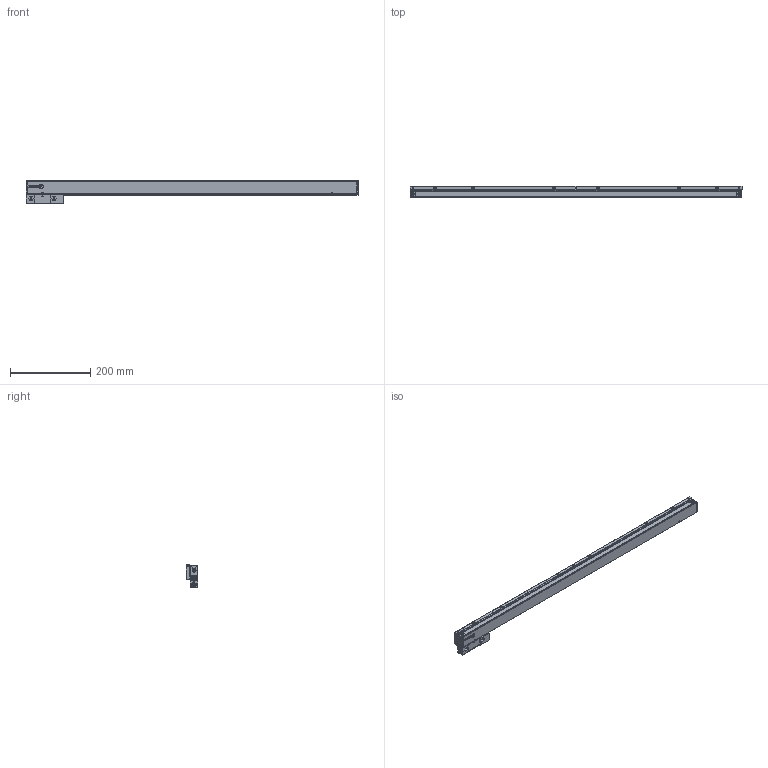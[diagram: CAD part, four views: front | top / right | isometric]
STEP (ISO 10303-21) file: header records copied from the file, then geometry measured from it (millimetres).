
FILE_DESCRIPTION(('Creo Elements/Direct Modeling STEP Export'),'2;1');
FILE_NAME('Regla SV2-720-T.stp','2018-10-15T15:25:28',(''),(''),'Creo Elements/Direct Modeling STEP processor for AP214 (Solid Model)','Creo Elements/Direct Modeling 19.0G 27-Nov-2017 (C) Parametric Technology GmbH','');
FILE_SCHEMA(('AUTOMOTIVE_DESIGN { 1 0 10303 214 1 1 1 1 }'));
Products named in the file (4): SOPORTE_SV2-T; REGLA_SV2-720-T; CABEZA_ROSCADA_REGLA_SV2-T
Assembly tree (3 placements, depth 2):
  REGLA_SV2-720-T
    CABEZA_ROSCADA_REGLA_SV2-T
    REGLA_SV2-720-T
    SOPORTE_SV2-T
Bounding box: 825 x 28 x 56.2 mm (x, y, z)
Volume: 457431 mm3; surface area: 243880.4 mm2
Topology: 2 solids, 24 shells, 2393 faces, 6651 edges, 4328 vertices
Faces by surface type: plane 1062, cylinder 936, cone 232, bspline 114, torus 42, sphere 4, extrusion 3
Entity records: 100414 total; most frequent: CARTESIAN_POINT 31212, ORIENTED_EDGE 13290, DIRECTION 10965, EDGE_CURVE 6629, VERTEX_POINT 4328, AXIS2_PLACEMENT_3D 3741, VECTOR 3483, LINE 3480
